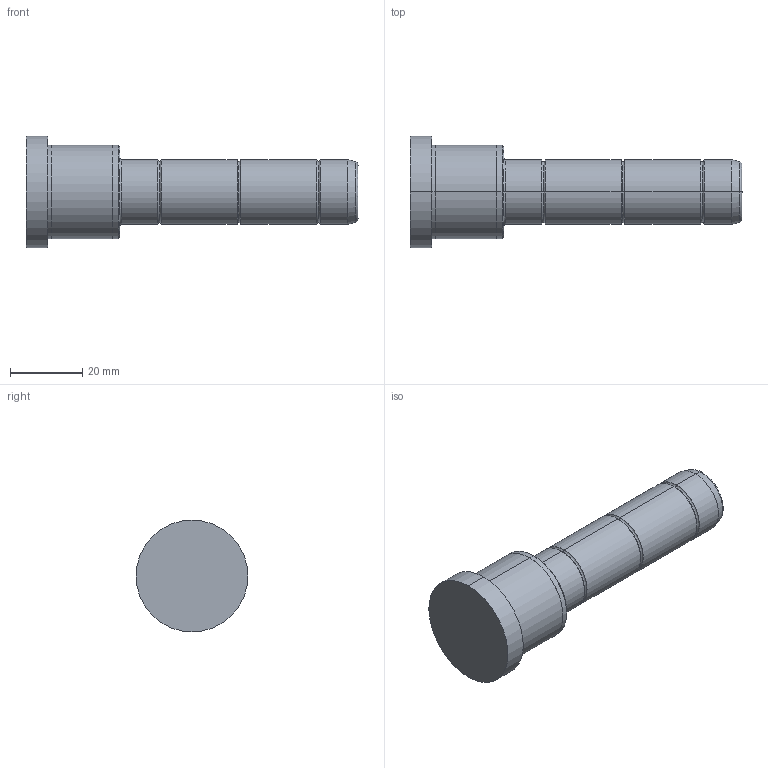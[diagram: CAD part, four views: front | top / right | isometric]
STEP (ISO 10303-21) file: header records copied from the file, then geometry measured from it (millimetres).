
FILE_DESCRIPTION( ( 'STEP AP203' ), '1' );
FILE_NAME( 'C:/Projects/D02 - 18x26x66.step', '2003-01-04T13:24:28', ( ' ' ), ( ' ' ), 'XStep 1.0', ' ', ' ' );
FILE_SCHEMA( ( 'CONFIG_CONTROL_DESIGN' ) );
Length unit declared in the file: metre
Products named in the file (1): 1
Bounding box: 92 x 31 x 31 mm (x, y, z)
Volume: 31812.1 mm3; surface area: 7456.4 mm2
Topology: 1 solids, 1 shells, 42 faces, 82 edges, 46 vertices
Faces by surface type: bspline 22, revolution 20
Entity records: 1325 total; most frequent: CARTESIAN_POINT 517, ORIENTED_EDGE 164, DIRECTION 134, EDGE_CURVE 82, AXIS2_PLACEMENT_3D 47, EDGE_LOOP 46, VERTEX_POINT 46, CIRCLE 46
